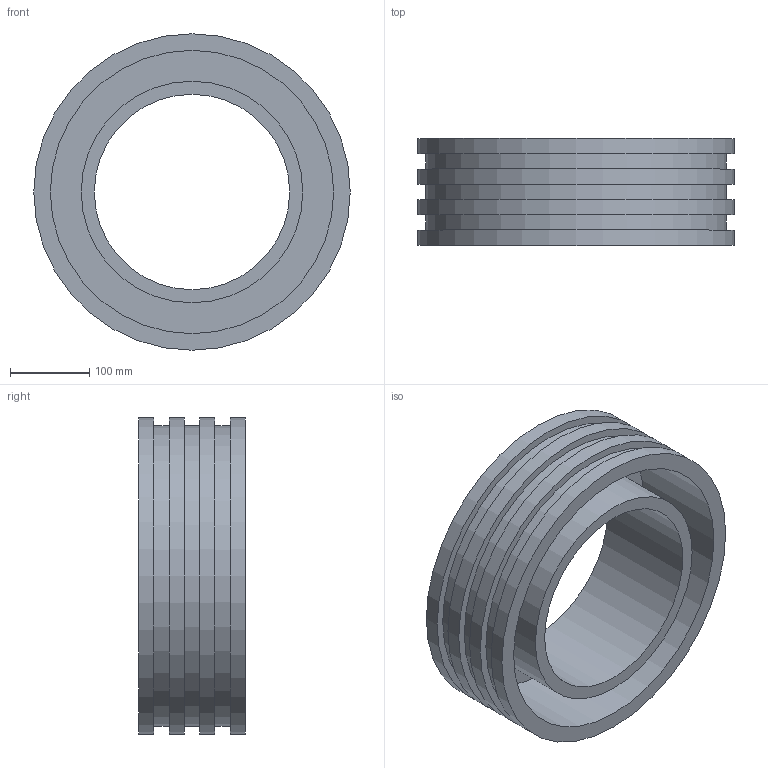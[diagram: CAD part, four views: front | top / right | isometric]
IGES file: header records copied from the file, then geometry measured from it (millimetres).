
Global section: file name: 477207280.ipt; native system: Autodesk Inventor 2015; preprocessor: unknown; author: Кирилл,,11,0; organization: 20170830.190241; date: 20171106.093326; units: millimetre
Bounding box: 400 x 135 x 400 mm (x, y, z)
Volume: 4887486.2 mm3; surface area: 751033 mm2
Topology: 1 solids, 1 shells, 20 faces, 34 edges, 24 vertices
Faces by surface type: plane 10, cylinder 8, revolution 2
Full cylindrical faces by diameter (mm): 280 x1, 380 x3, 400 x4
